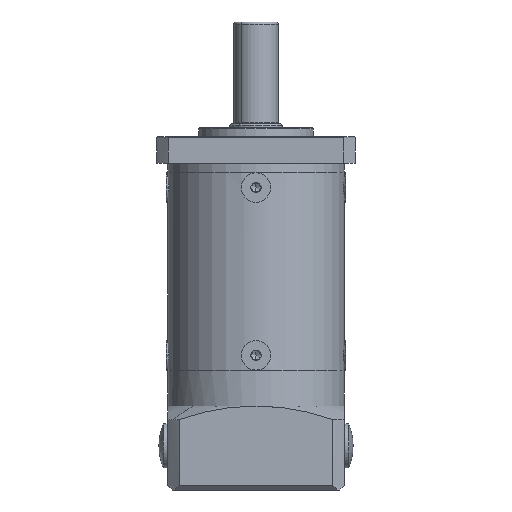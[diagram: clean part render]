
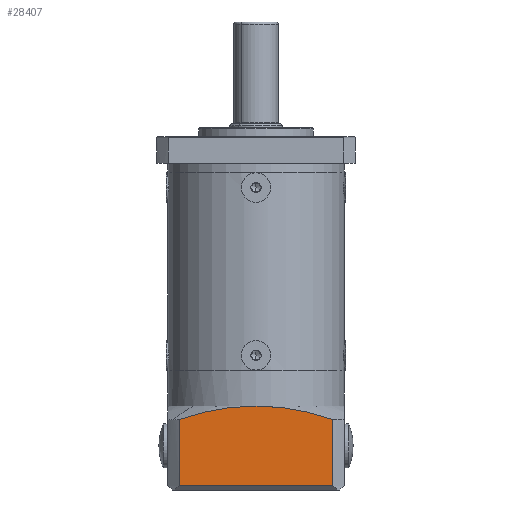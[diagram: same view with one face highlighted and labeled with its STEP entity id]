
A CAD part, front view. The second image highlights one B-rep face of the part: STEP entity #28407.
In plain terms, the highlighted planar face has unit normal (0, -1, 0).
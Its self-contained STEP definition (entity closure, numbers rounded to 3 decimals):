
#588 = CARTESIAN_POINT ( 'NONE',  ( -22.195, -6.138, -17.79 ) ) ;
#3564 = EDGE_CURVE ( 'NONE', #23973, #35993, #20976, .T. ) ;
#3627 = DIRECTION ( 'NONE',  ( 0., -1., 0. ) ) ;
#4162 = LINE ( 'NONE', #5011, #46160 ) ;
#4689 = DIRECTION ( 'NONE',  ( 0., 0., -1. ) ) ;
#4977 = CARTESIAN_POINT ( 'NONE',  ( 15.19, -6.138, -33.75 ) ) ;
#5011 = CARTESIAN_POINT ( 'NONE',  ( 12.575, -6.138, -109.453 ) ) ;
#5837 = DIRECTION ( 'NONE',  ( 0., -1., 0. ) ) ;
#5990 = CARTESIAN_POINT ( 'NONE',  ( -4.81, -6.138, -65.985 ) ) ;
#6476 = ORIENTED_EDGE ( 'NONE', *, *, #29695, .F. ) ;
#7644 = DIRECTION ( 'NONE',  ( 1., 0., 0. ) ) ;
#7652 = DIRECTION ( 'NONE',  ( 0., 0., -1. ) ) ;
#9405 = CIRCLE ( 'NONE', #12165, 51.235 ) ;
#11359 = DIRECTION ( 'NONE',  ( 0., 0., 1. ) ) ;
#12165 = AXIS2_PLACEMENT_3D ( 'NONE', #5990, #5837, #16901 ) ;
#12455 = VERTEX_POINT ( 'NONE', #588 ) ;
#12760 = CARTESIAN_POINT ( 'NONE',  ( -22.195, -6.138, -32.75 ) ) ;
#15895 = DIRECTION ( 'NONE',  ( 0., 1., 0. ) ) ;
#16901 = DIRECTION ( 'NONE',  ( 0., 0., -1. ) ) ;
#17525 = ORIENTED_EDGE ( 'NONE', *, *, #31911, .T. ) ;
#19577 = VERTEX_POINT ( 'NONE', #26515 ) ;
#20976 = LINE ( 'NONE', #40904, #25667 ) ;
#22788 = DIRECTION ( 'NONE',  ( 0., 0., -1. ) ) ;
#23973 = VERTEX_POINT ( 'NONE', #12760 ) ;
#24571 = CARTESIAN_POINT ( 'NONE',  ( -4.81, -6.138, -65.985 ) ) ;
#25190 = CARTESIAN_POINT ( 'NONE',  ( 12.575, -6.138, -32.75 ) ) ;
#25667 = VECTOR ( 'NONE', #7644, 1000. ) ;
#26515 = CARTESIAN_POINT ( 'NONE',  ( -4.81, -6.138, -14.75 ) ) ;
#28407 = ADVANCED_FACE ( 'NONE', ( #35934 ), #45487, .F. ) ;
#29695 = EDGE_CURVE ( 'NONE', #23973, #12455, #45689, .T. ) ;
#31023 = VERTEX_POINT ( 'NONE', #37462 ) ;
#31131 = EDGE_CURVE ( 'NONE', #31023, #35993, #4162, .T. ) ;
#31883 = VECTOR ( 'NONE', #11359, 1000. ) ;
#31911 = EDGE_CURVE ( 'NONE', #19577, #12455, #9405, .T. ) ;
#35502 = CIRCLE ( 'NONE', #46765, 51.235 ) ;
#35934 = FACE_OUTER_BOUND ( 'NONE', #42054, .T. ) ;
#35993 = VERTEX_POINT ( 'NONE', #25190 ) ;
#36900 = CARTESIAN_POINT ( 'NONE',  ( -22.195, -6.138, -109.453 ) ) ;
#37462 = CARTESIAN_POINT ( 'NONE',  ( 12.575, -6.138, -17.79 ) ) ;
#40904 = CARTESIAN_POINT ( 'NONE',  ( 15.19, -6.138, -32.75 ) ) ;
#42054 = EDGE_LOOP ( 'NONE', ( #45211, #44959, #17525, #6476, #44527 ) ) ;
#43555 = EDGE_CURVE ( 'NONE', #31023, #19577, #35502, .T. ) ;
#44527 = ORIENTED_EDGE ( 'NONE', *, *, #3564, .T. ) ;
#44959 = ORIENTED_EDGE ( 'NONE', *, *, #43555, .T. ) ;
#45052 = AXIS2_PLACEMENT_3D ( 'NONE', #4977, #15895, #22788 ) ;
#45211 = ORIENTED_EDGE ( 'NONE', *, *, #31131, .F. ) ;
#45487 = PLANE ( 'NONE',  #45052 ) ;
#45689 = LINE ( 'NONE', #36900, #31883 ) ;
#46160 = VECTOR ( 'NONE', #4689, 1000. ) ;
#46765 = AXIS2_PLACEMENT_3D ( 'NONE', #24571, #3627, #7652 ) ;
